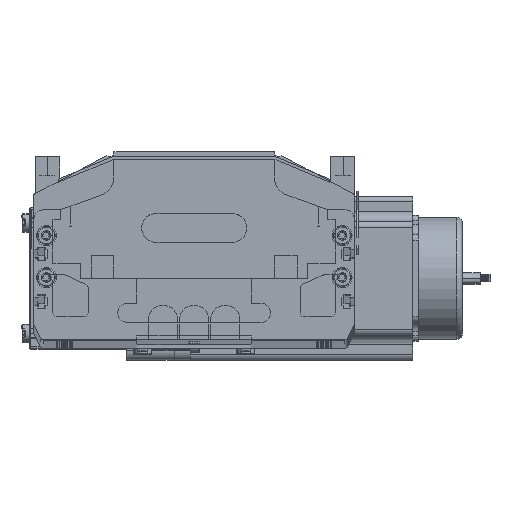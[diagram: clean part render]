
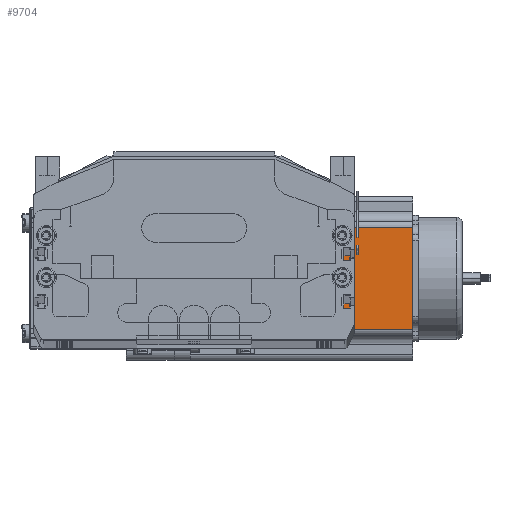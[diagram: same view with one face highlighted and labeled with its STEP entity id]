
A CAD part, top view. The second image highlights one B-rep face of the part: STEP entity #9704.
In plain terms, the highlighted planar face has unit normal (0, 0, 1) as drawn and (0, -1, 0) by its records, which use the part's own axes.
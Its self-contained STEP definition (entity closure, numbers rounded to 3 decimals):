
#9553 = VERTEX_POINT ( 'NONE', #63724 ) ;
#9555 = EDGE_CURVE ( 'NONE', #9553, #9711, #63644, .T. ) ;
#9569 = ORIENTED_EDGE ( 'NONE', *, *, #9570, .F. ) ;
#9570 = EDGE_CURVE ( 'NONE', #9553, #9702, #63865, .T. ) ;
#9571 = EDGE_CURVE ( 'NONE', #9705, #9702, #63866, .T. ) ;
#9572 = EDGE_CURVE ( 'NONE', #9711, #9705, #63855, .T. ) ;
#9680 = ORIENTED_EDGE ( 'NONE', *, *, #9572, .T. ) ;
#9702 = VERTEX_POINT ( 'NONE', #63883 ) ;
#9704 = ADVANCED_FACE ( 'NONE', ( #63891 ), #64110, .F. ) ;
#9705 = VERTEX_POINT ( 'NONE', #64116 ) ;
#9706 = ORIENTED_EDGE ( 'NONE', *, *, #9571, .T. ) ;
#9709 = ORIENTED_EDGE ( 'NONE', *, *, #9555, .T. ) ;
#9711 = VERTEX_POINT ( 'NONE', #64106 ) ;
#9792 = EDGE_LOOP ( 'NONE', ( #9680, #9706, #9569, #9709 ) ) ;
#63641 = DIRECTION ( 'NONE',  ( 0., 0., -1. ) ) ;
#63642 = VECTOR ( 'NONE', #63641, 1000. ) ;
#63643 = CARTESIAN_POINT ( 'NONE',  ( 16.16, 0., 116.5 ) ) ;
#63644 = LINE ( 'NONE', #63643, #63642 ) ;
#63724 = CARTESIAN_POINT ( 'NONE',  ( 16.16, 0., 116.5 ) ) ;
#63850 = DIRECTION ( 'NONE',  ( 1., 0., 0. ) ) ;
#63851 = VECTOR ( 'NONE', #63850, 1000. ) ;
#63852 = CARTESIAN_POINT ( 'NONE',  ( 0., 0., 0. ) ) ;
#63855 = LINE ( 'NONE', #63852, #63851 ) ;
#63858 = DIRECTION ( 'NONE',  ( 0., 0., 1. ) ) ;
#63859 = VECTOR ( 'NONE', #63858, 1000. ) ;
#63860 = CARTESIAN_POINT ( 'NONE',  ( 69.74, 0., 116.5 ) ) ;
#63862 = DIRECTION ( 'NONE',  ( 1., 0., 0. ) ) ;
#63863 = VECTOR ( 'NONE', #63862, 1000. ) ;
#63864 = CARTESIAN_POINT ( 'NONE',  ( 0., 0., 116.5 ) ) ;
#63865 = LINE ( 'NONE', #63864, #63863 ) ;
#63866 = LINE ( 'NONE', #63860, #63859 ) ;
#63883 = CARTESIAN_POINT ( 'NONE',  ( 69.74, 0., 116.5 ) ) ;
#63891 = FACE_OUTER_BOUND ( 'NONE', #9792, .T. ) ;
#63998 = DIRECTION ( 'NONE',  ( 0., 0., 1. ) ) ;
#63999 = DIRECTION ( 'NONE',  ( 0., 1., 0. ) ) ;
#64000 = CARTESIAN_POINT ( 'NONE',  ( 0., 0., 116.5 ) ) ;
#64106 = CARTESIAN_POINT ( 'NONE',  ( 16.16, 0., 0. ) ) ;
#64110 = PLANE ( 'NONE',  #64117 ) ;
#64116 = CARTESIAN_POINT ( 'NONE',  ( 69.74, 0., 0. ) ) ;
#64117 = AXIS2_PLACEMENT_3D ( 'NONE', #64000, #63999, #63998 ) ;
